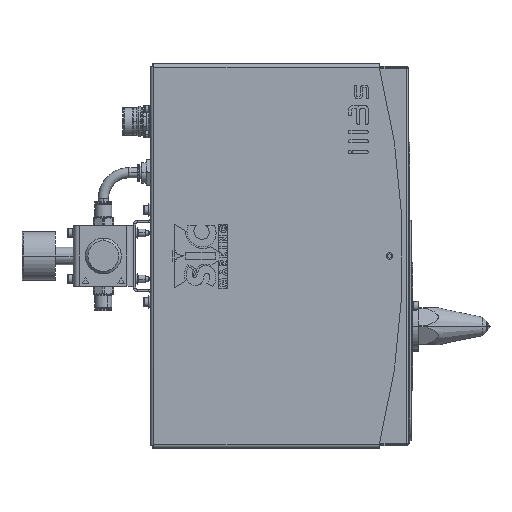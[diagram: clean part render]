
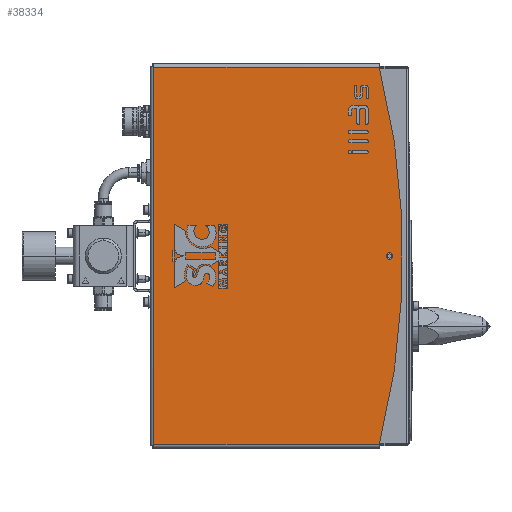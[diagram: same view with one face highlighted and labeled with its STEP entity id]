
A CAD part, left-side view. The second image highlights one B-rep face of the part: STEP entity #38334.
In plain terms, the highlighted planar face has unit normal (-1, 0, 0).
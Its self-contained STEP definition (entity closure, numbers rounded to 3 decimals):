
#27456 = CARTESIAN_POINT ( 'NONE',  ( -230., -101.2, 2.5 ) ) ;
#27458 = DIRECTION ( 'NONE',  ( 0., 0., 1. ) ) ;
#27460 = DIRECTION ( 'NONE',  ( -1., 0., 0. ) ) ;
#27462 = CARTESIAN_POINT ( 'NONE',  ( -230., -101.2, 0. ) ) ;
#27463 = AXIS2_PLACEMENT_3D ( 'NONE', #27462, #27460, #27458 ) ;
#27465 = CIRCLE ( 'NONE', #27463, 2.5 ) ;
#27469 = CARTESIAN_POINT ( 'NONE',  ( -230., -101.2, -2.5 ) ) ;
#28007 = FACE_OUTER_BOUND ( 'NONE', #38343, .T. ) ;
#28009 = FACE_BOUND ( 'NONE', #38336, .T. ) ;
#28112 = CARTESIAN_POINT ( 'NONE',  ( -230., 82.8, -147.5 ) ) ;
#28115 = CARTESIAN_POINT ( 'NONE',  ( -230., -93.2, -147.5 ) ) ;
#28117 = DIRECTION ( 'NONE',  ( 0., 1., 0. ) ) ;
#28119 = VECTOR ( 'NONE', #28117, 1000. ) ;
#28120 = CARTESIAN_POINT ( 'NONE',  ( -230., -1593.2, -147.5 ) ) ;
#28121 = LINE ( 'NONE', #28120, #28119 ) ;
#28125 = DIRECTION ( 'NONE',  ( 0., 0., 1. ) ) ;
#28127 = DIRECTION ( 'NONE',  ( -1., 0., 0. ) ) ;
#28129 = AXIS2_PLACEMENT_3D ( 'NONE', #28139, #28127, #28125 ) ;
#28131 = CIRCLE ( 'NONE', #28129, 2.5 ) ;
#28135 = DIRECTION ( 'NONE',  ( 0., 0., -1. ) ) ;
#28137 = DIRECTION ( 'NONE',  ( 1., 0., 0. ) ) ;
#28138 = AXIS2_PLACEMENT_3D ( 'NONE', #28143, #28137, #28135 ) ;
#28139 = CARTESIAN_POINT ( 'NONE',  ( -230., -101.2, 0. ) ) ;
#28143 = CARTESIAN_POINT ( 'NONE',  ( -230., -93.2, 150. ) ) ;
#28145 = PLANE ( 'NONE',  #28138 ) ;
#28282 = CARTESIAN_POINT ( 'NONE',  ( -230., 82.8, 147.5 ) ) ;
#28283 = DIRECTION ( 'NONE',  ( 0., -1., 0. ) ) ;
#28284 = VECTOR ( 'NONE', #28283, 1000. ) ;
#28286 = CARTESIAN_POINT ( 'NONE',  ( -230., 85.3, 147.5 ) ) ;
#28287 = LINE ( 'NONE', #28286, #28284 ) ;
#28292 = CARTESIAN_POINT ( 'NONE',  ( -230., -93.2, 147.5 ) ) ;
#28294 = DIRECTION ( 'NONE',  ( 0., 0., 1. ) ) ;
#28295 = DIRECTION ( 'NONE',  ( -1., 0., 0. ) ) ;
#28296 = CARTESIAN_POINT ( 'NONE',  ( -230., 488.387, 0. ) ) ;
#28298 = AXIS2_PLACEMENT_3D ( 'NONE', #28296, #28295, #28294 ) ;
#28299 = CIRCLE ( 'NONE', #28298, 600. ) ;
#28409 = DIRECTION ( 'NONE',  ( 0., 0., 1. ) ) ;
#28411 = VECTOR ( 'NONE', #28409, 1000. ) ;
#28413 = CARTESIAN_POINT ( 'NONE',  ( -230., 82.8, -150. ) ) ;
#28414 = LINE ( 'NONE', #28413, #28411 ) ;
#38077 = VERTEX_POINT ( 'NONE', #27469 ) ;
#38080 = EDGE_CURVE ( 'NONE', #38077, #38081, #27465, .T. ) ;
#38081 = VERTEX_POINT ( 'NONE', #27456 ) ;
#38334 = ADVANCED_FACE ( 'NONE', ( #28009, #28007 ), #28145, .F. ) ;
#38336 = EDGE_LOOP ( 'NONE', ( #38337, #38340 ) ) ;
#38337 = ORIENTED_EDGE ( 'NONE', *, *, #38338, .F. ) ;
#38338 = EDGE_CURVE ( 'NONE', #38081, #38077, #28131, .T. ) ;
#38340 = ORIENTED_EDGE ( 'NONE', *, *, #38080, .F. ) ;
#38343 = EDGE_LOOP ( 'NONE', ( #38346, #38350, #38454, #38460 ) ) ;
#38346 = ORIENTED_EDGE ( 'NONE', *, *, #38347, .F. ) ;
#38347 = EDGE_CURVE ( 'NONE', #38348, #38349, #28121, .T. ) ;
#38348 = VERTEX_POINT ( 'NONE', #28115 ) ;
#38349 = VERTEX_POINT ( 'NONE', #28112 ) ;
#38350 = ORIENTED_EDGE ( 'NONE', *, *, #38450, .T. ) ;
#38450 = EDGE_CURVE ( 'NONE', #38348, #38452, #28299, .T. ) ;
#38452 = VERTEX_POINT ( 'NONE', #28292 ) ;
#38454 = ORIENTED_EDGE ( 'NONE', *, *, #38456, .F. ) ;
#38456 = EDGE_CURVE ( 'NONE', #38458, #38452, #28287, .T. ) ;
#38458 = VERTEX_POINT ( 'NONE', #28282 ) ;
#38460 = ORIENTED_EDGE ( 'NONE', *, *, #38461, .F. ) ;
#38461 = EDGE_CURVE ( 'NONE', #38349, #38458, #28414, .T. ) ;
